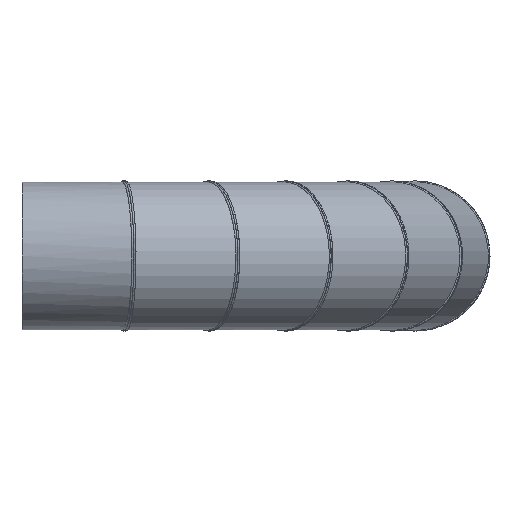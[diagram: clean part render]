
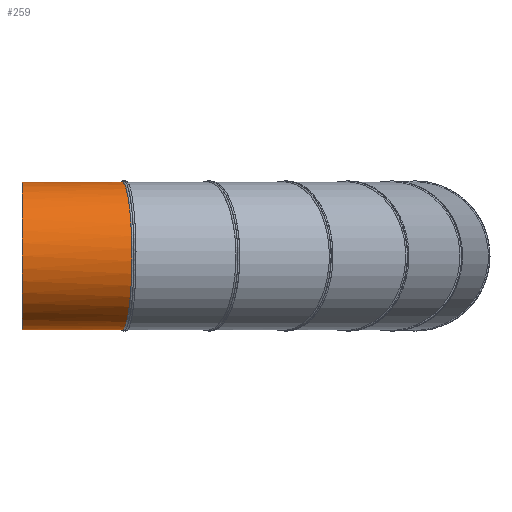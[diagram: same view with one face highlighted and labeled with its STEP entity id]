
A CAD part, front view. The second image highlights one B-rep face of the part: STEP entity #259.
In plain terms, the highlighted cylindrical face has radius 280 mm (diameter 560 mm), a full revolution.
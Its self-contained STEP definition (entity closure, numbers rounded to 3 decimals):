
#18=CIRCLE('',#310,280.);
#113=ORIENTED_EDGE('',*,*,#149,.T.);
#114=ORIENTED_EDGE('',*,*,#142,.F.);
#142=EDGE_CURVE('',#164,#164,#18,.T.);
#149=EDGE_CURVE('',#171,#171,#178,.T.);
#164=VERTEX_POINT('',#2454);
#171=VERTEX_POINT('',#2516);
#178=B_SPLINE_CURVE_WITH_KNOTS('',3,(#2469,#2470,#2471,#2472,#2473,#2474,
#2475,#2476,#2477,#2478,#2479,#2480,#2481,#2482,#2483,#2484,#2485,#2486,
#2487,#2488,#2489,#2490,#2491,#2492,#2493,#2494,#2495,#2496,#2497,#2498,
#2499,#2500,#2501,#2502,#2503,#2504,#2505,#2506,#2507,#2508,#2509,#2510,
#2511,#2512,#2513,#2514,#2515),.UNSPECIFIED.,.T.,.F.,(1,1,1,1,1,1,1,1,1,
1,1,1,1,1,1,1,1,1,1,1,1,1,1,1,1,1,1,1,1,1,1,1,1,1,1,1,1,1,1,1,1,1,1,1,1,
1,1,1,1,1,1),(-0.111,-0.055,-0.028,
0.,0.055,0.111,0.138,0.166,
0.221,0.276,0.332,0.387,
0.442,0.47,0.497,0.525,
0.553,0.608,0.636,0.663,
0.718,0.746,0.774,0.829,
0.884,0.939,0.967,0.995,
1.022,1.05,1.105,1.133,1.161,
1.216,1.271,1.326,1.382,1.437,
1.464,1.492,1.52,1.547,1.603,
1.63,1.658,1.713,1.741,1.768,
1.824,1.879,1.907),.UNSPECIFIED.);
#201=EDGE_LOOP('',(#113));
#202=EDGE_LOOP('',(#114));
#229=FACE_BOUND('',#201,.T.);
#230=FACE_BOUND('',#202,.T.);
#243=CYLINDRICAL_SURFACE('',#318,280.);
#259=ADVANCED_FACE('',(#229,#230),#243,.T.);
#310=AXIS2_PLACEMENT_3D('',#2453,#370,#371);
#318=AXIS2_PLACEMENT_3D('',#2468,#386,#387);
#370=DIRECTION('',(0.,1.,0.));
#371=DIRECTION('',(-1.,0.,0.));
#386=DIRECTION('',(0.,1.,0.));
#387=DIRECTION('',(-1.,0.,0.));
#2453=CARTESIAN_POINT('',(1267.448,220.,0.));
#2454=CARTESIAN_POINT('',(987.448,220.,0.));
#2468=CARTESIAN_POINT('',(1267.448,-203.725,0.));
#2469=CARTESIAN_POINT('',(988.358,-122.085,-27.633));
#2470=CARTESIAN_POINT('',(986.538,-121.846,9.217));
#2471=CARTESIAN_POINT('',(991.09,-122.444,55.21));
#2472=CARTESIAN_POINT('',(1004.561,-124.214,99.414));
#2473=CARTESIAN_POINT('',(1020.343,-126.288,132.636));
#2474=CARTESIAN_POINT('',(1039.317,-128.782,164.16));
#2475=CARTESIAN_POINT('',(1068.612,-132.634,199.695));
#2476=CARTESIAN_POINT('',(1111.369,-138.256,234.627));
#2477=CARTESIAN_POINT('',(1160.,-144.653,260.505));
#2478=CARTESIAN_POINT('',(1212.713,-151.589,276.423));
#2479=CARTESIAN_POINT('',(1258.304,-157.59,280.893));
#2480=CARTESIAN_POINT('',(1294.823,-162.398,279.107));
#2481=CARTESIAN_POINT('',(1321.932,-165.968,275.103));
#2482=CARTESIAN_POINT('',(1348.528,-169.471,268.471));
#2483=CARTESIAN_POINT('',(1382.995,-174.011,256.194));
#2484=CARTESIAN_POINT('',(1415.42,-178.284,238.938));
#2485=CARTESIAN_POINT('',(1444.892,-182.168,217.176));
#2486=CARTESIAN_POINT('',(1472.14,-185.76,192.591));
#2487=CARTESIAN_POINT('',(1495.579,-188.85,164.155));
#2488=CARTESIAN_POINT('',(1514.536,-191.35,132.67));
#2489=CARTESIAN_POINT('',(1530.339,-193.434,99.408));
#2490=CARTESIAN_POINT('',(1543.801,-195.21,55.238));
#2491=CARTESIAN_POINT('',(1549.269,-195.931,-0.002));
#2492=CARTESIAN_POINT('',(1544.721,-195.331,-45.983));
#2493=CARTESIAN_POINT('',(1535.728,-194.145,-81.731));
#2494=CARTESIAN_POINT('',(1526.392,-192.914,-107.711));
#2495=CARTESIAN_POINT('',(1514.555,-191.353,-132.633));
#2496=CARTESIAN_POINT('',(1495.586,-188.851,-164.15));
#2497=CARTESIAN_POINT('',(1472.143,-185.76,-192.585));
#2498=CARTESIAN_POINT('',(1444.924,-182.173,-217.15));
#2499=CARTESIAN_POINT('',(1415.426,-178.285,-238.937));
#2500=CARTESIAN_POINT('',(1374.905,-172.945,-260.501));
#2501=CARTESIAN_POINT('',(1322.199,-166.003,-276.42));
#2502=CARTESIAN_POINT('',(1267.476,-158.797,-281.789));
#2503=CARTESIAN_POINT('',(1212.711,-151.588,-276.423));
#2504=CARTESIAN_POINT('',(1168.828,-145.814,-263.174));
#2505=CARTESIAN_POINT('',(1135.697,-141.456,-247.574));
#2506=CARTESIAN_POINT('',(1112.117,-138.354,-233.502));
#2507=CARTESIAN_POINT('',(1090.009,-135.447,-217.18));
#2508=CARTESIAN_POINT('',(1062.764,-131.865,-192.599));
#2509=CARTESIAN_POINT('',(1039.321,-128.783,-164.162));
#2510=CARTESIAN_POINT('',(1020.362,-126.291,-132.673));
#2511=CARTESIAN_POINT('',(1004.56,-124.214,-99.418));
#2512=CARTESIAN_POINT('',(993.79,-122.799,-64.072));
#2513=CARTESIAN_POINT('',(988.358,-122.085,-27.633));
#2514=CARTESIAN_POINT('',(986.538,-121.846,9.217));
#2515=CARTESIAN_POINT('',(991.09,-122.444,55.21));
#2516=CARTESIAN_POINT('',(987.448,-121.965,0.));
